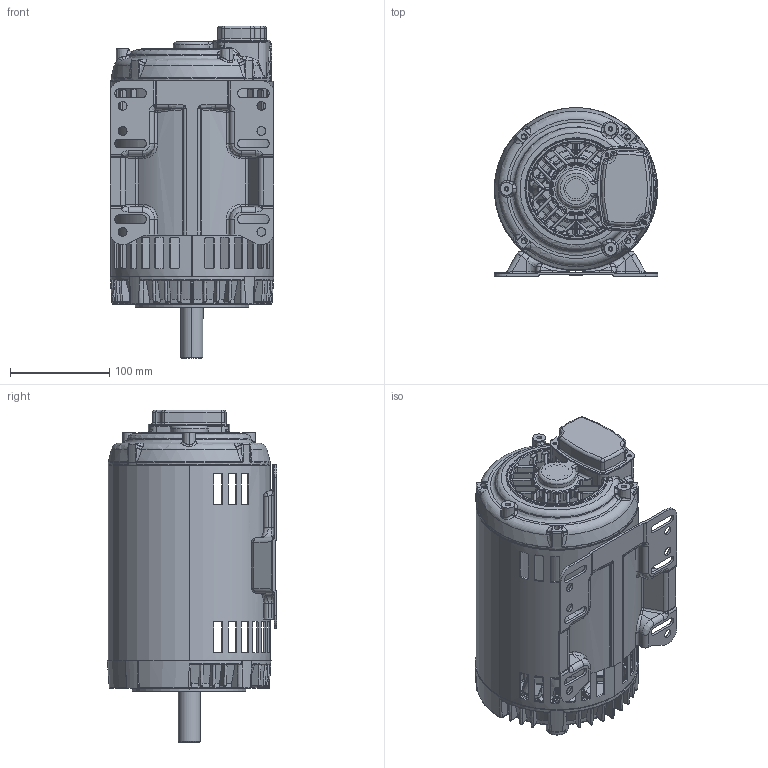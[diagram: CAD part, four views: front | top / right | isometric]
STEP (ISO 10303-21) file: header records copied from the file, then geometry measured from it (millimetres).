
FILE_DESCRIPTION((''),'2;1');
FILE_NAME('140_CFACE_ASM','2015-06-04T',('NMC2342'),('Nidec Motor Corporation'),'PRO/ENGINEER BY PARAMETRIC TECHNOLOGY CORPORATION, 2013150','PRO/ENGINEER BY PARAMETRIC TECHNOLOGY CORPORATION, 2013150','');
FILE_SCHEMA(('CONFIG_CONTROL_DESIGN'));
Length unit declared in the file: inch
Products named in the file (11): 0486941AM03_AF0; 0152008; B352773860001_DP; 2030599-001; C18747690_ENCL_AF0; C18747690_INS4_AF0; S33749499_002_ASM; 0774783; 0024876; 2030678; 140_CFACE_ASM
Assembly tree (10 placements, depth 3):
  140_CFACE_ASM
    0486941AM03_AF0
    0152008
    B352773860001_DP
    2030599-001
    S33749499_002_ASM
      C18747690_ENCL_AF0
      C18747690_INS4_AF0
    0774783
    0024876
    2030678
Bounding box: 165.1 x 170.63 x 334.63 mm (x, y, z)
Volume: 718175.2 mm3; surface area: 487827.4 mm2
Topology: 11 solids, 11 shells, 2867 faces, 6939 edges, 4109 vertices
Faces by surface type: bspline 1107, plane 515, cylinder 449, torus 350, cone 314, sphere 118, extrusion 12, revolution 2
Entity records: 126703 total; most frequent: CARTESIAN_POINT 67252, ORIENTED_EDGE 13878, DIRECTION 10584, EDGE_CURVE 6939, AXIS2_PLACEMENT_3D 4553, VERTEX_POINT 4109, EDGE_LOOP 3006, FACE_OUTER_BOUND 2867
